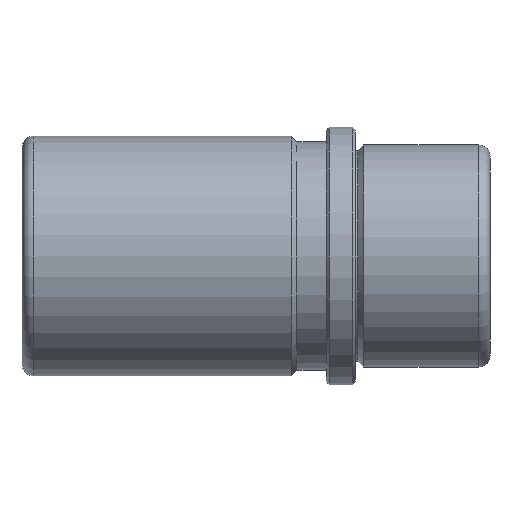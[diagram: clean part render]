
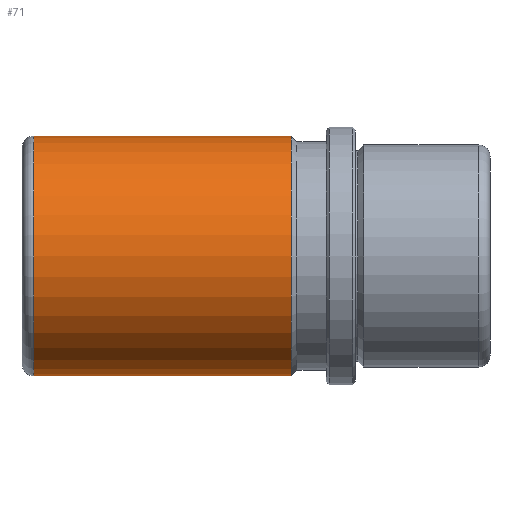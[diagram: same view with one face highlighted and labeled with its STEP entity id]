
A CAD part, front view. The second image highlights one B-rep face of the part: STEP entity #71.
In plain terms, the highlighted cylindrical face has radius 20.5 mm (diameter 41 mm), a full revolution.
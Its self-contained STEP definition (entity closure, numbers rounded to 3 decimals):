
#71 = ADVANCED_FACE( '', ( #157, #158, #159 ), #160, .T. );
#157 = FACE_OUTER_BOUND( '', #250, .T. );
#158 = FACE_BOUND( '', #251, .T. );
#159 = FACE_OUTER_BOUND( '', #252, .T. );
#160 = CYLINDRICAL_SURFACE( '', #253, 20.5 );
#250 = EDGE_LOOP( '', ( #363 ) );
#251 = EDGE_LOOP( '', ( #364 ) );
#252 = EDGE_LOOP( '', ( #365 ) );
#253 = AXIS2_PLACEMENT_3D( '', #366, #367, #368 );
#363 = ORIENTED_EDGE( '', *, *, #433, .T. );
#364 = ORIENTED_EDGE( '', *, *, #419, .T. );
#365 = ORIENTED_EDGE( '', *, *, #445, .F. );
#366 = CARTESIAN_POINT( '', ( 23., 0., 0. ) );
#367 = DIRECTION( '', ( -1., 0., 0. ) );
#368 = DIRECTION( '', ( 0., 0., -1. ) );
#419 = EDGE_CURVE( '', #467, #467, #468, .T. );
#433 = EDGE_CURVE( '', #490, #490, #491, .T. );
#445 = EDGE_CURVE( '', #508, #508, #509, .T. );
#467 = VERTEX_POINT( '', #597 );
#468 = B_SPLINE_CURVE_WITH_KNOTS( '', 3, ( #598, #599, #600, #601, #602, #603, #604, #605, #606, #607, #608, #609, #610, #611, #612, #613, #614, #615, #616, #617, #618, #619, #620, #621, #622, #623, #624, #625, #626, #627, #628, #629, #630, #631, #632, #633, #634, #635, #636, #637, #638, #639, #640, #641, #642, #643, #644, #645, #646, #647, #648, #649, #650, #651, #652, #653, #654, #655, #656, #657, #658, #659, #660, #661, #662, #663 ), .UNSPECIFIED., .T., .F., ( 2, 2, 2, 2, 2, 2, 2, 2, 2, 2, 2, 2, 2, 2, 2, 2, 2, 2, 2, 2, 2, 2, 2, 2, 2, 2, 2, 2, 2, 2, 2, 2, 2, 2, 2 ), ( -0.001, 0., 0.001, 0.002, 0.002, 0.003, 0.004, 0.005, 0.006, 0.007, 0.007, 0.008, 0.009, 0.01, 0.011, 0.011, 0.012, 0.013, 0.014, 0.015, 0.016, 0.016, 0.017, 0.018, 0.019, 0.02, 0.021, 0.021, 0.022, 0.023, 0.024, 0.025, 0.025, 0.026, 0.027 ), .UNSPECIFIED. );
#490 = VERTEX_POINT( '', #685 );
#491 = CIRCLE( '', #686, 20.5 );
#508 = VERTEX_POINT( '', #703 );
#509 = CIRCLE( '', #704, 20.5 );
#597 = CARTESIAN_POINT( '', ( -18., 20.068, -4.188 ) );
#598 = CARTESIAN_POINT( '', ( -18.277, 20.068, -4.188 ) );
#599 = CARTESIAN_POINT( '', ( -17.723, 20.068, -4.188 ) );
#600 = CARTESIAN_POINT( '', ( -17.45, 20.073, -4.161 ) );
#601 = CARTESIAN_POINT( '', ( -16.914, 20.095, -4.054 ) );
#602 = CARTESIAN_POINT( '', ( -16.647, 20.112, -3.973 ) );
#603 = CARTESIAN_POINT( '', ( -16.14, 20.152, -3.763 ) );
#604 = CARTESIAN_POINT( '', ( -15.9, 20.176, -3.634 ) );
#605 = CARTESIAN_POINT( '', ( -15.446, 20.228, -3.33 ) );
#606 = CARTESIAN_POINT( '', ( -15.231, 20.257, -3.154 ) );
#607 = CARTESIAN_POINT( '', ( -14.846, 20.313, -2.768 ) );
#608 = CARTESIAN_POINT( '', ( -14.673, 20.341, -2.558 ) );
#609 = CARTESIAN_POINT( '', ( -14.366, 20.393, -2.101 ) );
#610 = CARTESIAN_POINT( '', ( -14.237, 20.417, -1.858 ) );
#611 = CARTESIAN_POINT( '', ( -14.028, 20.457, -1.354 ) );
#612 = CARTESIAN_POINT( '', ( -13.947, 20.473, -1.09 ) );
#613 = CARTESIAN_POINT( '', ( -13.839, 20.494, -0.549 ) );
#614 = CARTESIAN_POINT( '', ( -13.812, 20.5, -0.276 ) );
#615 = CARTESIAN_POINT( '', ( -13.812, 20.5, 0.271 ) );
#616 = CARTESIAN_POINT( '', ( -13.839, 20.494, 0.55 ) );
#617 = CARTESIAN_POINT( '', ( -13.946, 20.473, 1.087 ) );
#618 = CARTESIAN_POINT( '', ( -14.026, 20.457, 1.349 ) );
#619 = CARTESIAN_POINT( '', ( -14.236, 20.417, 1.857 ) );
#620 = CARTESIAN_POINT( '', ( -14.367, 20.393, 2.101 ) );
#621 = CARTESIAN_POINT( '', ( -14.67, 20.342, 2.554 ) );
#622 = CARTESIAN_POINT( '', ( -14.844, 20.313, 2.766 ) );
#623 = CARTESIAN_POINT( '', ( -15.233, 20.257, 3.155 ) );
#624 = CARTESIAN_POINT( '', ( -15.443, 20.229, 3.328 ) );
#625 = CARTESIAN_POINT( '', ( -15.896, 20.176, 3.631 ) );
#626 = CARTESIAN_POINT( '', ( -16.141, 20.152, 3.763 ) );
#627 = CARTESIAN_POINT( '', ( -16.647, 20.112, 3.973 ) );
#628 = CARTESIAN_POINT( '', ( -16.908, 20.096, 4.053 ) );
#629 = CARTESIAN_POINT( '', ( -17.447, 20.073, 4.16 ) );
#630 = CARTESIAN_POINT( '', ( -17.725, 20.068, 4.188 ) );
#631 = CARTESIAN_POINT( '', ( -18.272, 20.068, 4.188 ) );
#632 = CARTESIAN_POINT( '', ( -18.545, 20.073, 4.162 ) );
#633 = CARTESIAN_POINT( '', ( -19.087, 20.095, 4.054 ) );
#634 = CARTESIAN_POINT( '', ( -19.35, 20.111, 3.974 ) );
#635 = CARTESIAN_POINT( '', ( -19.855, 20.152, 3.765 ) );
#636 = CARTESIAN_POINT( '', ( -20.099, 20.176, 3.634 ) );
#637 = CARTESIAN_POINT( '', ( -20.555, 20.228, 3.33 ) );
#638 = CARTESIAN_POINT( '', ( -20.766, 20.256, 3.157 ) );
#639 = CARTESIAN_POINT( '', ( -21.152, 20.313, 2.771 ) );
#640 = CARTESIAN_POINT( '', ( -21.329, 20.341, 2.556 ) );
#641 = CARTESIAN_POINT( '', ( -21.632, 20.393, 2.103 ) );
#642 = CARTESIAN_POINT( '', ( -21.761, 20.417, 1.863 ) );
#643 = CARTESIAN_POINT( '', ( -21.972, 20.457, 1.355 ) );
#644 = CARTESIAN_POINT( '', ( -22.053, 20.473, 1.09 ) );
#645 = CARTESIAN_POINT( '', ( -22.16, 20.494, 0.554 ) );
#646 = CARTESIAN_POINT( '', ( -22.188, 20.5, 0.279 ) );
#647 = CARTESIAN_POINT( '', ( -22.188, 20.5, -0.274 ) );
#648 = CARTESIAN_POINT( '', ( -22.161, 20.494, -0.546 ) );
#649 = CARTESIAN_POINT( '', ( -22.055, 20.473, -1.083 ) );
#650 = CARTESIAN_POINT( '', ( -21.974, 20.457, -1.35 ) );
#651 = CARTESIAN_POINT( '', ( -21.764, 20.417, -1.856 ) );
#652 = CARTESIAN_POINT( '', ( -21.636, 20.394, -2.097 ) );
#653 = CARTESIAN_POINT( '', ( -21.331, 20.342, -2.553 ) );
#654 = CARTESIAN_POINT( '', ( -21.156, 20.313, -2.767 ) );
#655 = CARTESIAN_POINT( '', ( -20.771, 20.257, -3.152 ) );
#656 = CARTESIAN_POINT( '', ( -20.56, 20.229, -3.326 ) );
#657 = CARTESIAN_POINT( '', ( -20.102, 20.176, -3.633 ) );
#658 = CARTESIAN_POINT( '', ( -19.861, 20.152, -3.762 ) );
#659 = CARTESIAN_POINT( '', ( -19.358, 20.112, -3.971 ) );
#660 = CARTESIAN_POINT( '', ( -19.092, 20.096, -4.053 ) );
#661 = CARTESIAN_POINT( '', ( -18.551, 20.073, -4.161 ) );
#662 = CARTESIAN_POINT( '', ( -18.277, 20.068, -4.188 ) );
#663 = CARTESIAN_POINT( '', ( -17.723, 20.068, -4.188 ) );
#685 = CARTESIAN_POINT( '', ( -55., 0., -20.5 ) );
#686 = AXIS2_PLACEMENT_3D( '', #750, #751, #752 );
#703 = CARTESIAN_POINT( '', ( -11., 0., -20.5 ) );
#704 = AXIS2_PLACEMENT_3D( '', #768, #769, #770 );
#750 = CARTESIAN_POINT( '', ( -55., 0., 0. ) );
#751 = DIRECTION( '', ( 1., 0., 0. ) );
#752 = DIRECTION( '', ( 0., 0., -1. ) );
#768 = CARTESIAN_POINT( '', ( -11., 0., 0. ) );
#769 = DIRECTION( '', ( 1., 0., 0. ) );
#770 = DIRECTION( '', ( 0., 0., -1. ) );
